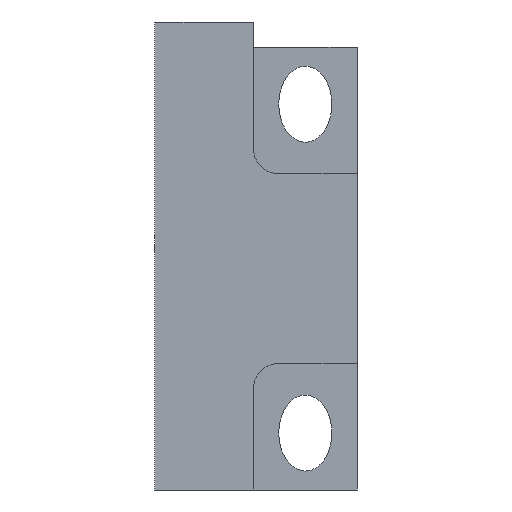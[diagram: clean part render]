
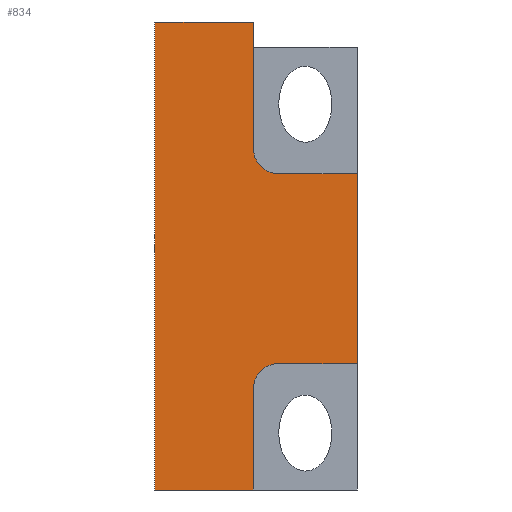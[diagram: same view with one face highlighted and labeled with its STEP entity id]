
A CAD part, front view. The second image highlights one B-rep face of the part: STEP entity #834.
In plain terms, the highlighted planar face has unit normal (0, -1, 0).
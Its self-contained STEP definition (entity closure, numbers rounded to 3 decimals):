
#13 = ORIENTED_EDGE ( 'NONE', *, *, #416, .F. ) ;
#21 = EDGE_CURVE ( 'NONE', #185, #243, #970, .T. ) ;
#22 = LINE ( 'NONE', #670, #346 ) ;
#29 = CARTESIAN_POINT ( 'NONE',  ( 0., 0., 37. ) ) ;
#39 = EDGE_LOOP ( 'NONE', ( #356, #758, #329, #231, #13, #602, #652, #833, #1061, #672 ) ) ;
#47 = DIRECTION ( 'NONE',  ( 0., -1., 0. ) ) ;
#57 = CARTESIAN_POINT ( 'NONE',  ( 7.8, 0., 27. ) ) ;
#61 = EDGE_CURVE ( 'NONE', #1009, #905, #80, .T. ) ;
#69 = EDGE_CURVE ( 'NONE', #243, #765, #747, .T. ) ;
#80 = LINE ( 'NONE', #241, #657 ) ;
#83 = CARTESIAN_POINT ( 'NONE',  ( 16., 0., 25. ) ) ;
#90 = AXIS2_PLACEMENT_3D ( 'NONE', #477, #874, #473 ) ;
#117 = CARTESIAN_POINT ( 'NONE',  ( 9.8, 0., 8. ) ) ;
#125 = AXIS2_PLACEMENT_3D ( 'NONE', #278, #47, #955 ) ;
#131 = EDGE_CURVE ( 'NONE', #909, #397, #22, .T. ) ;
#137 = LINE ( 'NONE', #228, #255 ) ;
#151 = DIRECTION ( 'NONE',  ( 0., 0., -1. ) ) ;
#154 = VERTEX_POINT ( 'NONE', #432 ) ;
#168 = CARTESIAN_POINT ( 'NONE',  ( 0., 0., 37. ) ) ;
#185 = VERTEX_POINT ( 'NONE', #29 ) ;
#228 = CARTESIAN_POINT ( 'NONE',  ( 0., 0., 0. ) ) ;
#231 = ORIENTED_EDGE ( 'NONE', *, *, #1021, .F. ) ;
#237 = EDGE_CURVE ( 'NONE', #698, #492, #967, .T. ) ;
#241 = CARTESIAN_POINT ( 'NONE',  ( 7.8, 0., 0. ) ) ;
#243 = VERTEX_POINT ( 'NONE', #847 ) ;
#250 = DIRECTION ( 'NONE',  ( -1., 0., 0. ) ) ;
#255 = VECTOR ( 'NONE', #561, 1000. ) ;
#256 = VECTOR ( 'NONE', #562, 1000. ) ;
#278 = CARTESIAN_POINT ( 'NONE',  ( 9.8, 0., 27. ) ) ;
#292 = AXIS2_PLACEMENT_3D ( 'NONE', #117, #928, #523 ) ;
#312 = CARTESIAN_POINT ( 'NONE',  ( 7.8, 0., 0. ) ) ;
#320 = DIRECTION ( 'NONE',  ( 0., 0., -1. ) ) ;
#329 = ORIENTED_EDGE ( 'NONE', *, *, #237, .F. ) ;
#338 = CARTESIAN_POINT ( 'NONE',  ( 9.8, 0., 25. ) ) ;
#346 = VECTOR ( 'NONE', #596, 1000. ) ;
#353 = LINE ( 'NONE', #514, #980 ) ;
#356 = ORIENTED_EDGE ( 'NONE', *, *, #61, .F. ) ;
#396 = CARTESIAN_POINT ( 'NONE',  ( 16., 0., 25. ) ) ;
#397 = VERTEX_POINT ( 'NONE', #396 ) ;
#403 = CARTESIAN_POINT ( 'NONE',  ( 7.8, 0., 37. ) ) ;
#405 = CARTESIAN_POINT ( 'NONE',  ( 0., 0., 0. ) ) ;
#416 = EDGE_CURVE ( 'NONE', #397, #154, #804, .T. ) ;
#432 = CARTESIAN_POINT ( 'NONE',  ( 16., 0., 10. ) ) ;
#462 = FACE_OUTER_BOUND ( 'NONE', #39, .T. ) ;
#473 = DIRECTION ( 'NONE',  ( 0., 0., -1. ) ) ;
#477 = CARTESIAN_POINT ( 'NONE',  ( 0., 0., 37. ) ) ;
#492 = VERTEX_POINT ( 'NONE', #815 ) ;
#499 = DIRECTION ( 'NONE',  ( 1., 0., 0. ) ) ;
#502 = VECTOR ( 'NONE', #151, 1000. ) ;
#514 = CARTESIAN_POINT ( 'NONE',  ( 16., 0., 10. ) ) ;
#523 = DIRECTION ( 'NONE',  ( -1., 0., 0. ) ) ;
#542 = VECTOR ( 'NONE', #320, 1000. ) ;
#561 = DIRECTION ( 'NONE',  ( 0., 0., 1. ) ) ;
#562 = DIRECTION ( 'NONE',  ( 0., 0., -1. ) ) ;
#596 = DIRECTION ( 'NONE',  ( 1., 0., 0. ) ) ;
#602 = ORIENTED_EDGE ( 'NONE', *, *, #131, .F. ) ;
#652 = ORIENTED_EDGE ( 'NONE', *, *, #679, .F. ) ;
#657 = VECTOR ( 'NONE', #250, 1000. ) ;
#670 = CARTESIAN_POINT ( 'NONE',  ( 9.8, 0., 25. ) ) ;
#672 = ORIENTED_EDGE ( 'NONE', *, *, #889, .F. ) ;
#679 = EDGE_CURVE ( 'NONE', #765, #909, #1035, .T. ) ;
#698 = VERTEX_POINT ( 'NONE', #950 ) ;
#729 = PLANE ( 'NONE',  #90 ) ;
#747 = LINE ( 'NONE', #403, #542 ) ;
#754 = DIRECTION ( 'NONE',  ( -1., 0., 0. ) ) ;
#758 = ORIENTED_EDGE ( 'NONE', *, *, #784, .F. ) ;
#765 = VERTEX_POINT ( 'NONE', #57 ) ;
#784 = EDGE_CURVE ( 'NONE', #492, #1009, #800, .T. ) ;
#797 = VECTOR ( 'NONE', #499, 1000. ) ;
#800 = LINE ( 'NONE', #938, #502 ) ;
#804 = LINE ( 'NONE', #83, #256 ) ;
#815 = CARTESIAN_POINT ( 'NONE',  ( 7.8, 0., 8. ) ) ;
#833 = ORIENTED_EDGE ( 'NONE', *, *, #69, .F. ) ;
#834 = ADVANCED_FACE ( 'NONE', ( #462 ), #729, .F. ) ;
#847 = CARTESIAN_POINT ( 'NONE',  ( 7.8, 0., 37. ) ) ;
#874 = DIRECTION ( 'NONE',  ( 0., 1., 0. ) ) ;
#889 = EDGE_CURVE ( 'NONE', #905, #185, #137, .T. ) ;
#905 = VERTEX_POINT ( 'NONE', #405 ) ;
#909 = VERTEX_POINT ( 'NONE', #338 ) ;
#928 = DIRECTION ( 'NONE',  ( 0., -1., 0. ) ) ;
#938 = CARTESIAN_POINT ( 'NONE',  ( 7.8, 0., 8. ) ) ;
#950 = CARTESIAN_POINT ( 'NONE',  ( 9.8, 0., 10. ) ) ;
#955 = DIRECTION ( 'NONE',  ( -1., 0., 0. ) ) ;
#967 = CIRCLE ( 'NONE', #292, 2. ) ;
#970 = LINE ( 'NONE', #168, #797 ) ;
#980 = VECTOR ( 'NONE', #754, 1000. ) ;
#1009 = VERTEX_POINT ( 'NONE', #312 ) ;
#1021 = EDGE_CURVE ( 'NONE', #154, #698, #353, .T. ) ;
#1035 = CIRCLE ( 'NONE', #125, 2. ) ;
#1061 = ORIENTED_EDGE ( 'NONE', *, *, #21, .F. ) ;
